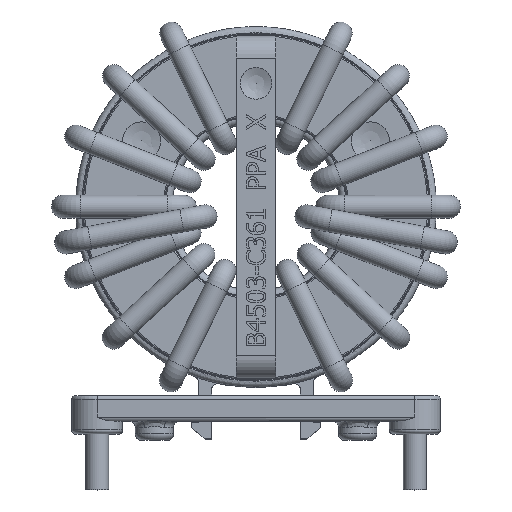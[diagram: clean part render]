
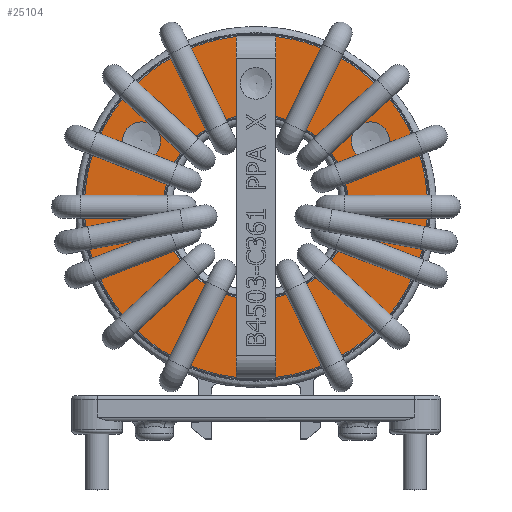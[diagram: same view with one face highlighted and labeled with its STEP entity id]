
A CAD part, top view. The second image highlights one B-rep face of the part: STEP entity #25104.
In plain terms, the highlighted planar face has unit normal (0, 0, 1).
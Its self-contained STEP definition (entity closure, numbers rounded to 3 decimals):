
#1772=FACE_BOUND('',#5038,.T.);
#1773=FACE_BOUND('',#5039,.T.);
#1774=FACE_BOUND('',#5040,.T.);
#2105=CIRCLE('',#26369,13.5);
#2108=CIRCLE('',#26374,7.3);
#2109=CIRCLE('',#26375,7.3);
#2110=CIRCLE('',#26376,1.5);
#2111=CIRCLE('',#26377,1.5);
#3676=FACE_OUTER_BOUND('',#5037,.T.);
#5037=EDGE_LOOP('',(#21096));
#5038=EDGE_LOOP('',(#21097,#21098,#21099,#21100,#21101,#21102,#21103,#21104));
#5039=EDGE_LOOP('',(#21105));
#5040=EDGE_LOOP('',(#21106));
#6205=LINE('',#39078,#8095);
#6208=LINE('',#39090,#8098);
#6214=LINE('',#39119,#8104);
#6216=LINE('',#39125,#8106);
#6240=LINE('',#39269,#8130);
#6244=LINE('',#39275,#8134);
#8095=VECTOR('',#28719,10.);
#8098=VECTOR('',#28730,10.);
#8104=VECTOR('',#28736,10.);
#8106=VECTOR('',#28742,10.);
#8130=VECTOR('',#28842,10.);
#8134=VECTOR('',#28846,10.);
#9580=VERTEX_POINT('',#35921);
#9582=VERTEX_POINT('',#35925);
#10068=VERTEX_POINT('',#39071);
#10071=VERTEX_POINT('',#39076);
#10075=VERTEX_POINT('',#39087);
#10076=VERTEX_POINT('',#39089);
#10081=VERTEX_POINT('',#39123);
#10105=VERTEX_POINT('',#39273);
#10975=VERTEX_POINT('',#44861);
#10978=VERTEX_POINT('',#44873);
#10979=VERTEX_POINT('',#44875);
#12995=EDGE_CURVE('',#10071,#10068,#6205,.T.);
#13001=EDGE_CURVE('',#10076,#10075,#6208,.T.);
#13009=EDGE_CURVE('',#10071,#9582,#6214,.T.);
#13012=EDGE_CURVE('',#10081,#10075,#6216,.T.);
#13059=EDGE_CURVE('',#9580,#10068,#6240,.T.);
#13063=EDGE_CURVE('',#10081,#10105,#6244,.T.);
#14433=EDGE_CURVE('',#10975,#10975,#2105,.T.);
#14437=EDGE_CURVE('',#10076,#9582,#2108,.T.);
#14438=EDGE_CURVE('',#9580,#10105,#2109,.T.);
#14439=EDGE_CURVE('',#10978,#10978,#2110,.T.);
#14440=EDGE_CURVE('',#10979,#10979,#2111,.T.);
#21096=ORIENTED_EDGE('',*,*,#14433,.F.);
#21097=ORIENTED_EDGE('',*,*,#13009,.T.);
#21098=ORIENTED_EDGE('',*,*,#14437,.F.);
#21099=ORIENTED_EDGE('',*,*,#13001,.T.);
#21100=ORIENTED_EDGE('',*,*,#13012,.F.);
#21101=ORIENTED_EDGE('',*,*,#13063,.T.);
#21102=ORIENTED_EDGE('',*,*,#14438,.F.);
#21103=ORIENTED_EDGE('',*,*,#13059,.T.);
#21104=ORIENTED_EDGE('',*,*,#12995,.F.);
#21105=ORIENTED_EDGE('',*,*,#14439,.T.);
#21106=ORIENTED_EDGE('',*,*,#14440,.T.);
#22690=PLANE('',#26373);
#25104=ADVANCED_FACE('',(#3676,#1772,#1773,#1774),#22690,.F.);
#26369=AXIS2_PLACEMENT_3D('',#44863,#30951,#30952);
#26373=AXIS2_PLACEMENT_3D('',#44870,#30960,#30961);
#26374=AXIS2_PLACEMENT_3D('',#44871,#30962,#30963);
#26375=AXIS2_PLACEMENT_3D('',#44872,#30964,#30965);
#26376=AXIS2_PLACEMENT_3D('',#44874,#30966,#30967);
#26377=AXIS2_PLACEMENT_3D('',#44876,#30968,#30969);
#28719=DIRECTION('',(-1.,0.,0.));
#28730=DIRECTION('',(0.,-1.,0.));
#28736=DIRECTION('',(0.,-1.,0.));
#28742=DIRECTION('',(1.,0.,0.));
#28842=DIRECTION('',(0.,1.,0.));
#28846=DIRECTION('',(0.,1.,0.));
#30951=DIRECTION('center_axis',(0.,0.,
-1.));
#30952=DIRECTION('ref_axis',(0.,-1.,0.));
#30960=DIRECTION('center_axis',(0.,0.,
-1.));
#30961=DIRECTION('ref_axis',(0.,-1.,0.));
#30962=DIRECTION('center_axis',(0.,0.,
1.));
#30963=DIRECTION('ref_axis',(0.,-1.,0.));
#30964=DIRECTION('center_axis',(0.,0.,
1.));
#30965=DIRECTION('ref_axis',(0.,-1.,0.));
#30966=DIRECTION('center_axis',(0.,0.,
-1.));
#30967=DIRECTION('ref_axis',(1.,0.,0.));
#30968=DIRECTION('center_axis',(0.,0.,
-1.));
#30969=DIRECTION('ref_axis',(1.,0.,0.));
#35921=CARTESIAN_POINT('',(-1.55,23.984,6.4));
#35925=CARTESIAN_POINT('',(1.55,23.984,6.4));
#39071=CARTESIAN_POINT('',(-1.55,30.25,6.4));
#39076=CARTESIAN_POINT('',(1.55,30.25,6.4));
#39078=CARTESIAN_POINT('',(-0.775,30.25,6.4));
#39087=CARTESIAN_POINT('',(1.55,3.45,6.4));
#39089=CARTESIAN_POINT('',(1.55,9.716,6.4));
#39090=CARTESIAN_POINT('',(1.55,23.6,6.4));
#39119=CARTESIAN_POINT('',(1.55,23.6,6.4));
#39123=CARTESIAN_POINT('',(-1.55,3.45,6.4));
#39125=CARTESIAN_POINT('',(0.775,3.45,6.4));
#39269=CARTESIAN_POINT('',(-1.55,10.1,6.4));
#39273=CARTESIAN_POINT('',(-1.55,9.716,6.4));
#39275=CARTESIAN_POINT('',(-1.55,10.1,6.4));
#44861=CARTESIAN_POINT('',(0.,30.35,6.4));
#44863=CARTESIAN_POINT('Origin',(0.,16.85,6.4));
#44870=CARTESIAN_POINT('Origin',(0.,16.85,6.4));
#44871=CARTESIAN_POINT('Origin',(0.,16.85,6.4));
#44872=CARTESIAN_POINT('Origin',(0.,16.85,6.4));
#44873=CARTESIAN_POINT('',(7.708,21.3,6.4));
#44874=CARTESIAN_POINT('Origin',(9.007,22.05,6.4));
#44875=CARTESIAN_POINT('',(-7.708,21.3,6.4));
#44876=CARTESIAN_POINT('Origin',(-9.007,22.05,6.4));
